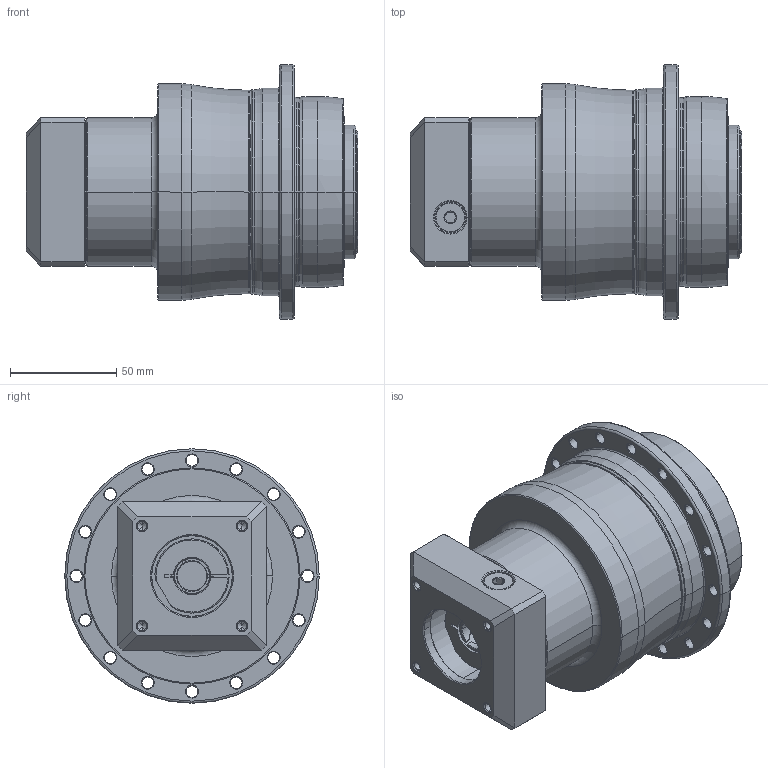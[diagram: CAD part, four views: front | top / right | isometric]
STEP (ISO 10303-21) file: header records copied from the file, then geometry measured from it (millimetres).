
FILE_DESCRIPTION((''),'2;1');
FILE_NAME('AP090_3ST_14-P0409300201_ASM','2018-10-16T',('d01226'),(''),'PRO/ENGINEER BY PARAMETRIC TECHNOLOGY CORPORATION, 2015240','PRO/ENGINEER BY PARAMETRIC TECHNOLOGY CORPORATION, 2015240','');
FILE_SCHEMA(('CONFIG_CONTROL_DESIGN'));
Length unit declared in the file: millimetre
Products named in the file (9): P0278301003; P0359301103; P1366300201; P0503300005; P0912102001; P1211300001; P0409300201; 21711410012; AP090_3ST_14-P0409300201_ASM
Assembly tree (8 placements, depth 2):
  AP090_3ST_14-P0409300201_ASM
    P0278301003
    P0359301103
    P1366300201
    P0503300005
    P0912102001
    P1211300001
    P0409300201
    21711410012
Bounding box: 156.5 x 120 x 120 mm (x, y, z)
Volume: 754322.8 mm3; surface area: 139930 mm2
Topology: 9 solids, 30 shells, 569 faces, 1309 edges, 804 vertices
Faces by surface type: cylinder 234, cone 146, plane 101, torus 74, bspline 14
Entity records: 20818 total; most frequent: CARTESIAN_POINT 7240, DIRECTION 3123, ORIENTED_EDGE 2516, AXIS2_PLACEMENT_3D 1339, EDGE_CURVE 1301, VERTEX_POINT 804, CIRCLE 757, EDGE_LOOP 693
